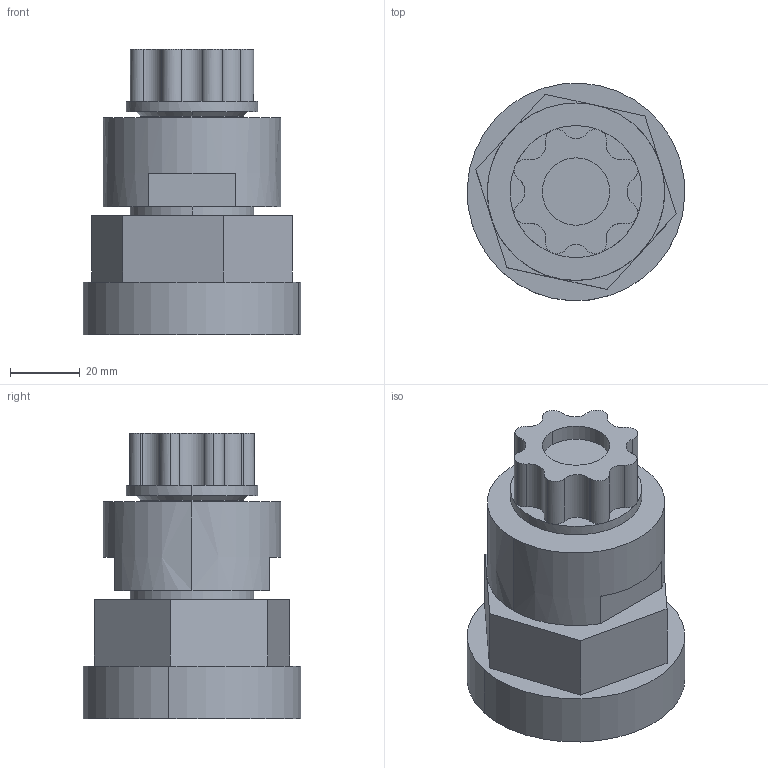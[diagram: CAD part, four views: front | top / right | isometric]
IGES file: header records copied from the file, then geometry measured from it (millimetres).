
Start section: SolidWorks IGES file using analytic representation for surfaces
Global section: file name: S:\Product Visuals\Pumps to be Defeatured\140 fittings\FITTING ASSEMBLIES\DEFEATURED\top-out\12-synchro-top-out.IGS; native system: SolidWorks 2012; preprocessor: SolidWorks 2012; author: rachel.dressel; date: 121203.145513; units: inch
Bounding box: 62.28 x 62.28 x 81.84 mm (x, y, z)
Volume: 158069.1 mm3; surface area: 22398.8 mm2
Topology: 1 solids, 1 shells, 63 faces, 155 edges, 100 vertices
Faces by surface type: revolution 37, plane 26
